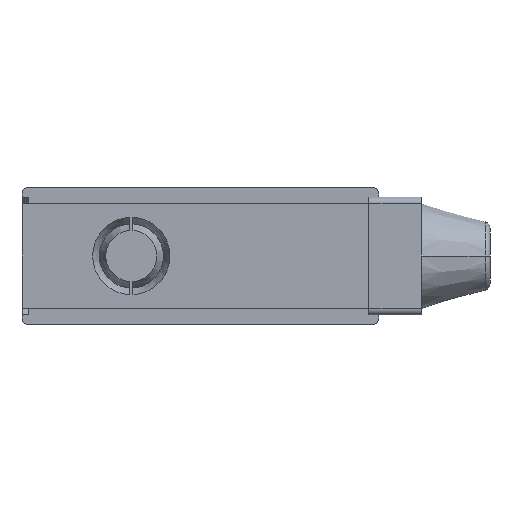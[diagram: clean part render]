
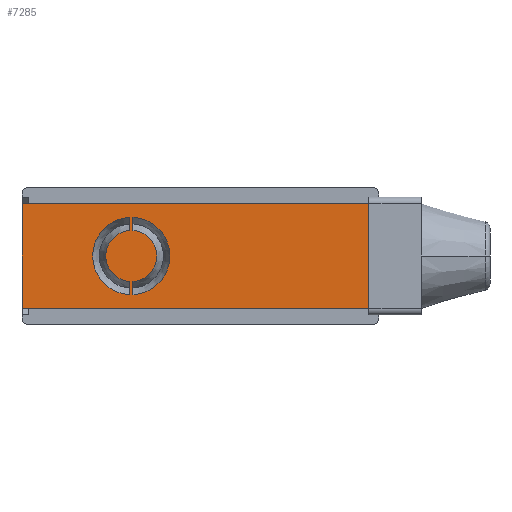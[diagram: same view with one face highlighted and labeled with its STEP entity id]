
A CAD part, front view. The second image highlights one B-rep face of the part: STEP entity #7285.
In plain terms, the highlighted planar face has unit normal (0, -1, 0).
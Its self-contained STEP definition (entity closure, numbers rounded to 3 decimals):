
#46 = VECTOR ( 'NONE', #12195, 1000. ) ;
#510 = EDGE_CURVE ( 'NONE', #1379, #1380, #2063, .T. ) ;
#516 = EDGE_CURVE ( 'NONE', #1375, #1377, #2065, .T. ) ;
#521 = EDGE_CURVE ( 'NONE', #1392, #1387, #5048, .T. ) ;
#1375 = VERTEX_POINT ( 'NONE', #5376 ) ;
#1377 = VERTEX_POINT ( 'NONE', #5378 ) ;
#1379 = VERTEX_POINT ( 'NONE', #5380 ) ;
#1380 = VERTEX_POINT ( 'NONE', #5381 ) ;
#1387 = VERTEX_POINT ( 'NONE', #5388 ) ;
#1392 = VERTEX_POINT ( 'NONE', #5393 ) ;
#1432 = VERTEX_POINT ( 'NONE', #5433 ) ;
#1435 = VERTEX_POINT ( 'NONE', #5436 ) ;
#1484 = VERTEX_POINT ( 'NONE', #5485 ) ;
#1486 = VERTEX_POINT ( 'NONE', #5487 ) ;
#1487 = VERTEX_POINT ( 'NONE', #5488 ) ;
#1488 = VERTEX_POINT ( 'NONE', #5489 ) ;
#1937 = EDGE_CURVE ( 'NONE', #1486, #1488, #7066, .T. ) ;
#1938 = EDGE_CURVE ( 'NONE', #1487, #1484, #7069, .T. ) ;
#1939 = EDGE_CURVE ( 'NONE', #1375, #1379, #7072, .T. ) ;
#1940 = EDGE_CURVE ( 'NONE', #1380, #1377, #7075, .T. ) ;
#1943 = EDGE_CURVE ( 'NONE', #1488, #1487, #2185, .T. ) ;
#1944 = EDGE_CURVE ( 'NONE', #1486, #1484, #2186, .T. ) ;
#2008 = EDGE_CURVE ( 'NONE', #1432, #1435, #7913, .T. ) ;
#2063 = CIRCLE ( 'NONE', #4734, 3.9 ) ;
#2065 = CIRCLE ( 'NONE', #4309, 5.9 ) ;
#2185 = CIRCLE ( 'NONE', #4582, 3.9 ) ;
#2186 = CIRCLE ( 'NONE', #4570, 5.9 ) ;
#2963 = ORIENTED_EDGE ( 'NONE', *, *, #521, .F. ) ;
#2964 = ORIENTED_EDGE ( 'NONE', *, *, #12409, .F. ) ;
#2965 = ORIENTED_EDGE ( 'NONE', *, *, #2008, .T. ) ;
#2966 = ORIENTED_EDGE ( 'NONE', *, *, #1943, .T. ) ;
#2967 = ORIENTED_EDGE ( 'NONE', *, *, #12398, .T. ) ;
#2968 = ORIENTED_EDGE ( 'NONE', *, *, #1944, .F. ) ;
#2969 = ORIENTED_EDGE ( 'NONE', *, *, #1938, .T. ) ;
#2970 = ORIENTED_EDGE ( 'NONE', *, *, #510, .T. ) ;
#2971 = ORIENTED_EDGE ( 'NONE', *, *, #1937, .T. ) ;
#2972 = ORIENTED_EDGE ( 'NONE', *, *, #516, .F. ) ;
#2973 = ORIENTED_EDGE ( 'NONE', *, *, #1940, .T. ) ;
#2974 = ORIENTED_EDGE ( 'NONE', *, *, #1939, .T. ) ;
#3366 = EDGE_LOOP ( 'NONE', ( #2973, #2972, #2974, #2970 ) ) ;
#3367 = EDGE_LOOP ( 'NONE', ( #2969, #2968, #2971, #2966 ) ) ;
#3368 = EDGE_LOOP ( 'NONE', ( #2965, #2964, #2963, #2967 ) ) ;
#3918 = FACE_BOUND ( 'NONE', #3366, .T. ) ;
#3968 = FACE_OUTER_BOUND ( 'NONE', #3368, .T. ) ;
#3976 = FACE_BOUND ( 'NONE', #3367, .T. ) ;
#3978 = AXIS2_PLACEMENT_3D ( 'NONE', #9276, #9277, #9278 ) ;
#4309 = AXIS2_PLACEMENT_3D ( 'NONE', #5032, #5033, #5034 ) ;
#4495 = VECTOR ( 'NONE', #7915, 1000. ) ;
#4570 = AXIS2_PLACEMENT_3D ( 'NONE', #7091, #7092, #7093 ) ;
#4579 = VECTOR ( 'NONE', #7068, 1000. ) ;
#4580 = VECTOR ( 'NONE', #7071, 1000. ) ;
#4581 = VECTOR ( 'NONE', #7074, 1000. ) ;
#4582 = AXIS2_PLACEMENT_3D ( 'NONE', #7088, #7089, #7090 ) ;
#4583 = VECTOR ( 'NONE', #7077, 1000. ) ;
#4587 = VECTOR ( 'NONE', #12228, 1000. ) ;
#4734 = AXIS2_PLACEMENT_3D ( 'NONE', #5004, #5005, #5006 ) ;
#4741 = VECTOR ( 'NONE', #5050, 1000. ) ;
#5004 = CARTESIAN_POINT ( 'NONE',  ( -10.55, -19.6, 0. ) ) ;
#5005 = DIRECTION ( 'NONE',  ( 0., -1., 0. ) ) ;
#5006 = DIRECTION ( 'NONE',  ( 0., 0., -1. ) ) ;
#5032 = CARTESIAN_POINT ( 'NONE',  ( -10.55, -19.6, 0. ) ) ;
#5033 = DIRECTION ( 'NONE',  ( 0., -1., 0. ) ) ;
#5034 = DIRECTION ( 'NONE',  ( 0., 0., -1. ) ) ;
#5048 = LINE ( 'NONE', #5049, #4741 ) ;
#5049 = CARTESIAN_POINT ( 'NONE',  ( 27.25, -19.6, 7.95 ) ) ;
#5050 = DIRECTION ( 'NONE',  ( 0., 0., -1. ) ) ;
#5376 = CARTESIAN_POINT ( 'NONE',  ( -10.3, -19.6, -5.895 ) ) ;
#5378 = CARTESIAN_POINT ( 'NONE',  ( -10.3, -19.6, 5.895 ) ) ;
#5380 = CARTESIAN_POINT ( 'NONE',  ( -10.3, -19.6, -3.892 ) ) ;
#5381 = CARTESIAN_POINT ( 'NONE',  ( -10.3, -19.6, 3.892 ) ) ;
#5388 = CARTESIAN_POINT ( 'NONE',  ( 27.25, -19.6, -7.95 ) ) ;
#5393 = CARTESIAN_POINT ( 'NONE',  ( 27.25, -19.6, 7.95 ) ) ;
#5433 = CARTESIAN_POINT ( 'NONE',  ( -27.25, -19.6, 7.95 ) ) ;
#5436 = CARTESIAN_POINT ( 'NONE',  ( -27.25, -19.6, -7.95 ) ) ;
#5485 = CARTESIAN_POINT ( 'NONE',  ( -10.8, -19.6, -5.895 ) ) ;
#5487 = CARTESIAN_POINT ( 'NONE',  ( -10.8, -19.6, 5.895 ) ) ;
#5488 = CARTESIAN_POINT ( 'NONE',  ( -10.8, -19.6, -3.892 ) ) ;
#5489 = CARTESIAN_POINT ( 'NONE',  ( -10.8, -19.6, 3.892 ) ) ;
#7066 = LINE ( 'NONE', #7067, #4579 ) ;
#7067 = CARTESIAN_POINT ( 'NONE',  ( -10.8, -19.6, -5.9 ) ) ;
#7068 = DIRECTION ( 'NONE',  ( 0., 0., -1. ) ) ;
#7069 = LINE ( 'NONE', #7070, #4580 ) ;
#7070 = CARTESIAN_POINT ( 'NONE',  ( -10.8, -19.6, -5.9 ) ) ;
#7071 = DIRECTION ( 'NONE',  ( 0., 0., -1. ) ) ;
#7072 = LINE ( 'NONE', #7073, #4581 ) ;
#7073 = CARTESIAN_POINT ( 'NONE',  ( -10.3, -19.6, -5.9 ) ) ;
#7074 = DIRECTION ( 'NONE',  ( 0., 0., 1. ) ) ;
#7075 = LINE ( 'NONE', #7076, #4583 ) ;
#7076 = CARTESIAN_POINT ( 'NONE',  ( -10.3, -19.6, -5.9 ) ) ;
#7077 = DIRECTION ( 'NONE',  ( 0., 0., 1. ) ) ;
#7088 = CARTESIAN_POINT ( 'NONE',  ( -10.55, -19.6, 0. ) ) ;
#7089 = DIRECTION ( 'NONE',  ( 0., -1., 0. ) ) ;
#7090 = DIRECTION ( 'NONE',  ( 0., 0., -1. ) ) ;
#7091 = CARTESIAN_POINT ( 'NONE',  ( -10.55, -19.6, 0. ) ) ;
#7092 = DIRECTION ( 'NONE',  ( 0., -1., 0. ) ) ;
#7093 = DIRECTION ( 'NONE',  ( 0., 0., -1. ) ) ;
#7285 = ADVANCED_FACE ( 'NONE', ( #3918, #3976, #3968 ), #9275, .F. ) ;
#7913 = LINE ( 'NONE', #7914, #4495 ) ;
#7914 = CARTESIAN_POINT ( 'NONE',  ( -27.25, -19.6, 7.95 ) ) ;
#7915 = DIRECTION ( 'NONE',  ( 0., 0., -1. ) ) ;
#9275 = PLANE ( 'NONE',  #3978 ) ;
#9276 = CARTESIAN_POINT ( 'NONE',  ( 27.25, -19.6, 7.95 ) ) ;
#9277 = DIRECTION ( 'NONE',  ( 0., 1., 0. ) ) ;
#9278 = DIRECTION ( 'NONE',  ( 0., 0., 1. ) ) ;
#12193 = LINE ( 'NONE', #12194, #46 ) ;
#12194 = CARTESIAN_POINT ( 'NONE',  ( 27.25, -19.6, 7.95 ) ) ;
#12195 = DIRECTION ( 'NONE',  ( -1., 0., 0. ) ) ;
#12226 = LINE ( 'NONE', #12227, #4587 ) ;
#12227 = CARTESIAN_POINT ( 'NONE',  ( 27.25, -19.6, -7.95 ) ) ;
#12228 = DIRECTION ( 'NONE',  ( -1., 0., 0. ) ) ;
#12398 = EDGE_CURVE ( 'NONE', #1392, #1432, #12193, .T. ) ;
#12409 = EDGE_CURVE ( 'NONE', #1387, #1435, #12226, .T. ) ;
